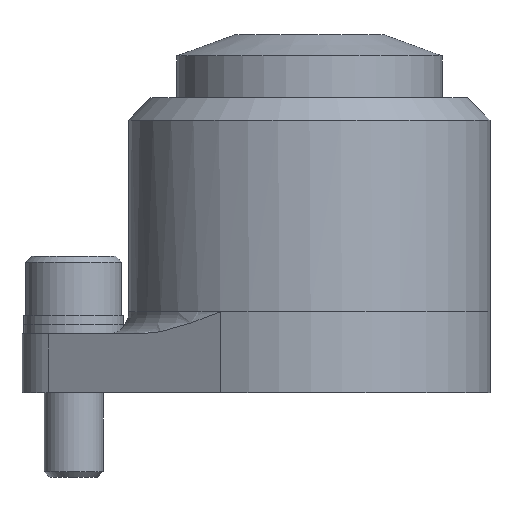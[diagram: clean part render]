
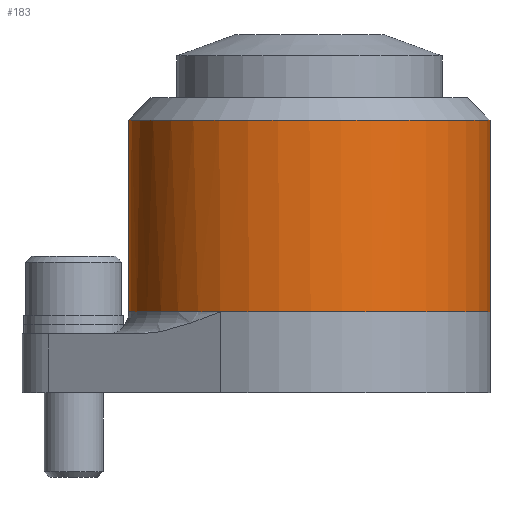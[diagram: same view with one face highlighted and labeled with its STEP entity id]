
A CAD part, front view. The second image highlights one B-rep face of the part: STEP entity #183.
In plain terms, the highlighted cylindrical face has radius 24.5 mm (diameter 49 mm), a partial arc.
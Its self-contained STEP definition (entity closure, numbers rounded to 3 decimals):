
#183=ADVANCED_FACE('',(#294),#256,.T.);
#256=CYLINDRICAL_SURFACE('',#1296,24.5);
#294=FACE_OUTER_BOUND('',#356,.T.);
#356=EDGE_LOOP('',(#559,#560,#561,#562,#563));
#440=CIRCLE('',#1271,24.5);
#458=CIRCLE('',#1294,24.5);
#459=CIRCLE('',#1295,24.5);
#559=ORIENTED_EDGE('',*,*,#963,.T.);
#560=ORIENTED_EDGE('',*,*,#988,.T.);
#561=ORIENTED_EDGE('',*,*,#989,.F.);
#562=ORIENTED_EDGE('',*,*,#986,.F.);
#563=ORIENTED_EDGE('',*,*,#990,.T.);
#857=VERTEX_POINT('',#1835);
#858=VERTEX_POINT('',#1837);
#876=VERTEX_POINT('',#1881);
#877=VERTEX_POINT('',#1883);
#878=VERTEX_POINT('',#1885);
#963=EDGE_CURVE('',#858,#857,#440,.T.);
#986=EDGE_CURVE('',#876,#877,#1132,.T.);
#988=EDGE_CURVE('',#857,#878,#1133,.T.);
#989=EDGE_CURVE('',#877,#878,#458,.T.);
#990=EDGE_CURVE('',#876,#858,#459,.T.);
#1132=LINE('',#1882,#1204);
#1133=LINE('',#1886,#1205);
#1204=VECTOR('',#1485,1.);
#1205=VECTOR('',#1488,1.);
#1271=AXIS2_PLACEMENT_3D('',#1836,#1437,#1438);
#1294=AXIS2_PLACEMENT_3D('',#1888,#1491,#1492);
#1295=AXIS2_PLACEMENT_3D('',#1889,#1493,#1494);
#1296=AXIS2_PLACEMENT_3D('',#1890,#1495,#1496);
#1437=DIRECTION('',(0.,0.,1.));
#1438=DIRECTION('',(-1.,0.,0.));
#1485=DIRECTION('',(0.,0.,1.));
#1488=DIRECTION('',(0.,0.,1.));
#1491=DIRECTION('',(0.,0.,1.));
#1492=DIRECTION('',(0.,1.,0.));
#1493=DIRECTION('',(0.,0.,1.));
#1494=DIRECTION('',(0.,1.,0.));
#1495=DIRECTION('',(0.,0.,1.));
#1496=DIRECTION('',(0.,-1.,0.));
#1835=CARTESIAN_POINT('',(24.5,0.,11.));
#1836=CARTESIAN_POINT('',(0.,0.,11.));
#1837=CARTESIAN_POINT('',(-12.066,-21.323,11.));
#1881=CARTESIAN_POINT('',(-24.5,0.,11.));
#1882=CARTESIAN_POINT('',(-24.5,0.,37.));
#1883=CARTESIAN_POINT('',(-24.5,0.,37.));
#1885=CARTESIAN_POINT('',(24.5,0.,37.));
#1886=CARTESIAN_POINT('',(24.5,0.,37.));
#1888=CARTESIAN_POINT('',(0.,0.,37.));
#1889=CARTESIAN_POINT('',(0.,0.,11.));
#1890=CARTESIAN_POINT('',(0.,0.,0.));
